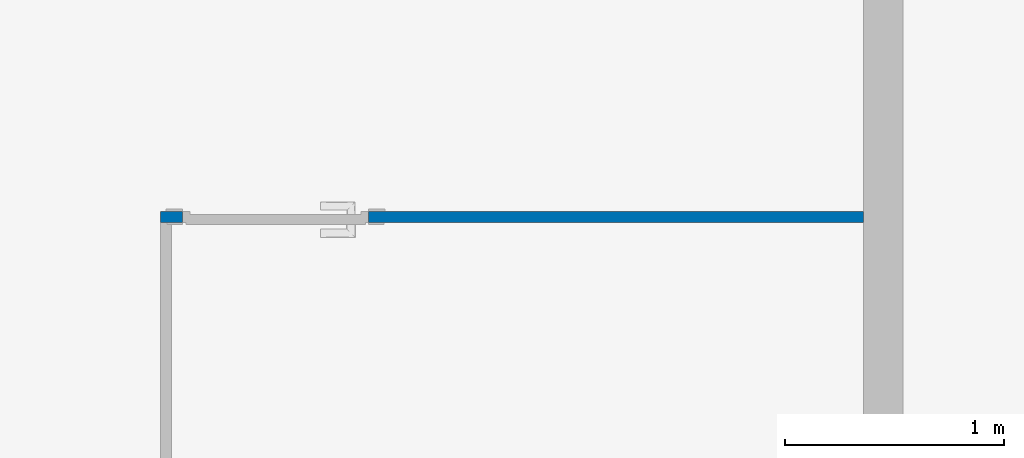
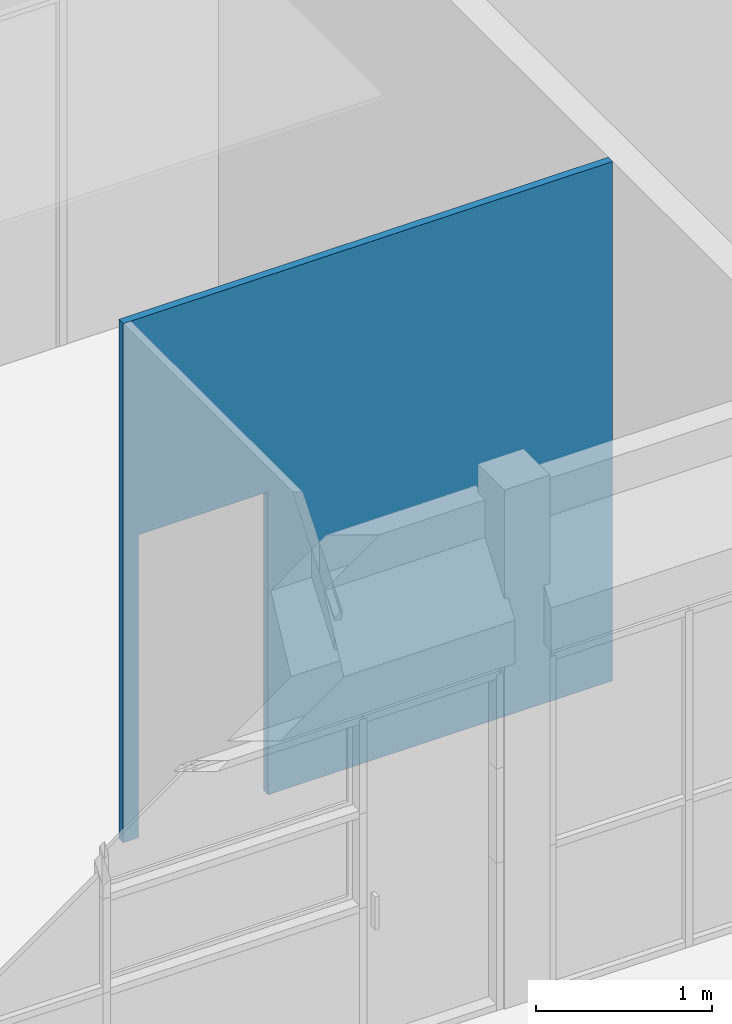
# One storey, part 73 of 117: 1 wall, 1 opening.
"""IFC4 building model written with IfcOpenShell, lengths in metres."""

import ifcopenshell
import ifcopenshell.guid

model = None  # the IFC model being written
_history = None  # IfcOwnerHistory: only IFC2X3 demands one
_inside = {}  # id of a spatial element -> (the spatial element, [elements in it])
_under = {}  # id of a project, library or spatial element -> (it, [spatial elements below it])
_declared = {}  # id of a project -> (the project, [libraries it declares])
_typed = {}  # id of a type object -> (the type object, [elements of that type])
_made_of = {}  # id of a material, layer set ... -> (it, [elements and type objects made of it])


def new_model(schema):
    """Start an empty IFC model of exactly this schema.

    Asked for "IFC4X3", IfcOpenShell would pick the latest addendum, in which some entities
    have other attributes; the version numbers below select the first issue.
    IFC2X3 requires an IfcOwnerHistory on every rooted entity: one is made here for all.
    """
    global model, _history
    if schema == "IFC4X3":
        model = ifcopenshell.file(schema_version=(4, 3, 0, 0))
    else:
        model = ifcopenshell.file(schema=schema)
    _inside.clear()
    _under.clear()
    _declared.clear()
    _typed.clear()
    _made_of.clear()
    _history = None
    if model.schema == "IFC2X3":
        org = make("IfcOrganization", Name="unknown")
        user = make(
            "IfcPersonAndOrganization",
            ThePerson=make("IfcPerson", FamilyName="unknown"),
            TheOrganization=org,
        )
        app = make(
            "IfcApplication",
            ApplicationDeveloper=org,
            Version="unknown",
            ApplicationFullName="unknown",
            ApplicationIdentifier="unknown",
        )
        _history = make(
            "IfcOwnerHistory",
            OwningUser=user,
            OwningApplication=app,
            ChangeAction="ADDED",
            CreationDate=0,
        )
    return model


def make(cls, **values):
    """One entity of the class cls with the attributes given. An attribute that is None is left unset."""
    return model.create_entity(
        cls, **{name: value for name, value in values.items() if value is not None}
    )


def entity(cls, *values):
    """Any entity or typed value of the class cls, its attributes in the order of the schema. None: left unset."""
    e = model.create_entity(cls)
    for i, value in enumerate(values):
        if value is not None:
            e[i] = value
    return e


def rooted(cls, **values):
    """An entity with a GlobalId (a new one), such as an element, a storey or a relation."""
    return make(cls, GlobalId=ifcopenshell.guid.new(), OwnerHistory=_history, **values)


def si_unit(unit_type, name, prefix=None):
    """IfcSIUnit, for example si_unit("LENGTHUNIT", "METRE", prefix="MILLI")."""
    return make("IfcSIUnit", UnitType=unit_type, Prefix=prefix, Name=name)


def converted_unit(unit_type, name, factor, base, dimensions=None, offset=None):
    """IfcConversionBasedUnit, such as the inch: factor (a typed value) times the base unit."""
    return make(
        "IfcConversionBasedUnit"
        if offset is None
        else "IfcConversionBasedUnitWithOffset",
        ConversionOffset=offset,
        Dimensions=None
        if dimensions is None
        else entity("IfcDimensionalExponents", *dimensions),
        UnitType=unit_type,
        Name=name,
        ConversionFactor=make(
            "IfcMeasureWithUnit", ValueComponent=factor, UnitComponent=base
        ),
    )


def derived_unit(unit_type, elements):
    """IfcDerivedUnit: a product of units, each with its exponent."""
    return make(
        "IfcDerivedUnit",
        Elements=[
            make("IfcDerivedUnitElement", Unit=unit, Exponent=power)
            for unit, power in elements
        ],
        UnitType=unit_type,
    )


def assignment(units):
    """IfcUnitAssignment: the units of a project."""
    return None if units is None else make("IfcUnitAssignment", Units=units)


def point(xyz):
    """IfcCartesianPoint."""
    return None if xyz is None else make("IfcCartesianPoint", Coordinates=xyz)


def direction(xyz):
    """IfcDirection."""
    return None if xyz is None else make("IfcDirection", DirectionRatios=xyz)


def frame(location, z_axis=None, x_axis=None):
    """IfcAxis2Placement3D, a coordinate frame: its origin and axes. An axis left out is left unset."""
    return make(
        "IfcAxis2Placement3D",
        Location=point(location),
        Axis=direction(z_axis),
        RefDirection=direction(x_axis),
    )


def origin():
    """The frame at (0, 0, 0) with its axes left unset."""
    return frame((0.0, 0.0, 0.0))


def place(relative_to, where):
    """IfcLocalPlacement: puts the frame where relative to a parent placement (None: the world)."""
    return make(
        "IfcLocalPlacement", PlacementRelTo=relative_to, RelativePlacement=where
    )


def context(
    kind, dimensions, precision=None, world=None, true_north=None, identifier=None
):
    """IfcGeometricRepresentationContext, for example the 3D "Model" context."""
    return make(
        "IfcGeometricRepresentationContext",
        ContextIdentifier=identifier,
        ContextType=kind,
        CoordinateSpaceDimension=dimensions,
        Precision=precision,
        WorldCoordinateSystem=world,
        TrueNorth=true_north,
    )


def subcontext(parent, identifier, kind, view, scale=None):
    """IfcGeometricRepresentationSubContext, for example "Body" below "Model"."""
    return make(
        "IfcGeometricRepresentationSubContext",
        ContextIdentifier=identifier,
        ContextType=kind,
        ParentContext=parent,
        TargetScale=scale,
        TargetView=view,
    )


def project(units=None, contexts=None):
    """IfcProject with its units and contexts."""
    return rooted(
        "IfcProject",
        Name="project",
        RepresentationContexts=contexts,
        UnitsInContext=assignment(units),
    )


def spatial(cls, under=None, at=None, **own):
    """A site, building, storey or space (cls), placed at a placement, below another one or the project."""
    s = rooted(cls, ObjectPlacement=at, **own)
    if under is not None:
        _under.setdefault(under.id(), (under, []))[1].append(s)
    return s


def point_list(points):
    """IfcCartesianPointList2D or 3D."""
    cls = (
        "IfcCartesianPointList2D" if len(points[0]) == 2 else "IfcCartesianPointList3D"
    )
    return make(cls, CoordList=points)


def indexed_curve(points, segments=None, self_intersect=None):
    """IfcIndexedPolyCurve: lines and arcs through numbered points (the first is 1)."""
    return make(
        "IfcIndexedPolyCurve",
        Points=point_list(points),
        Segments=segments,
        SelfIntersect=self_intersect,
    )


def outline(outer, holes=None, kind="AREA"):
    """IfcArbitraryClosedProfileDef: a profile drawn as a closed curve; with holes, ...WithVoids."""
    if holes is None:
        return make("IfcArbitraryClosedProfileDef", ProfileType=kind, OuterCurve=outer)
    return make(
        "IfcArbitraryProfileDefWithVoids",
        ProfileType=kind,
        OuterCurve=outer,
        InnerCurves=holes,
    )


def extrude(swept, where, along, depth):
    """IfcExtrudedAreaSolid: the profile swept, set in the frame where, extruded along a direction by depth."""
    return make(
        "IfcExtrudedAreaSolid",
        SweptArea=swept,
        Position=where,
        ExtrudedDirection=direction(along),
        Depth=depth,
    )


def polygons(points, faces, closed=None, point_numbers=None):
    """IfcPolygonalFaceSet: a face is its outer loop, then its inner loops; points numbered from 1."""
    made = []
    for loops in faces:
        if len(loops) == 1:
            made.append(make("IfcIndexedPolygonalFace", CoordIndex=loops[0]))
        else:
            made.append(
                make(
                    "IfcIndexedPolygonalFaceWithVoids",
                    CoordIndex=loops[0],
                    InnerCoordIndices=loops[1:],
                )
            )
    return make(
        "IfcPolygonalFaceSet",
        Coordinates=point_list(points),
        Closed=closed,
        Faces=made,
        PnIndex=point_numbers,
    )


def shape(context_of_items, identifier, shape_type, items):
    """IfcShapeRepresentation: the items that make up one representation, for example the "Body"."""
    return make(
        "IfcShapeRepresentation",
        ContextOfItems=context_of_items,
        RepresentationIdentifier=identifier,
        RepresentationType=shape_type,
        Items=items,
    )


def material(Name=None, Category=None):
    """IfcMaterial."""
    return make("IfcMaterial", Name=Name, Category=Category)


def made_of(thing, what):
    """Note that an element or type object is made of a material, layer set ...; save() writes the relation."""
    if what is not None:
        _made_of.setdefault(what.id(), (what, []))[1].append(thing)
    return thing


def type_object(cls, material=None, **own):
    """A type object (cls), such as IfcWallType, which elements share."""
    return made_of(rooted(cls, **own), material)


def element(
    cls,
    number,
    at=None,
    inside=None,
    cuts=None,
    type_object=None,
    material=None,
    context=None,
    identifier="Body",
    shape_type=None,
    held_by="IfcProductDefinitionShape",
    body=None,
    shapes=None,
    **own,
):
    """One element of the class cls, such as IfcWall. Its Tag is "e" and its number.

    at: its placement. inside: the storey or other place that contains it. cuts: it is an
    opening in that element (IfcRelVoidsElement). A single representation is given by context,
    identifier, shape_type and body (its items); several are given by shapes. held_by: the class
    of the entity that holds the representations. save() writes the other relations.
    """
    e = rooted(cls, Tag="e%d" % number, ObjectPlacement=at, **own)
    if body is not None:
        shapes = [shape(context, identifier, shape_type, body)]
    if shapes is not None:
        e.Representation = make(held_by, Representations=shapes)
    if inside is not None:
        _inside.setdefault(inside.id(), (inside, []))[1].append(e)
    if cuts is not None:
        rooted(
            "IfcRelVoidsElement", RelatingBuildingElement=cuts, RelatedOpeningElement=e
        )
    if type_object is not None:
        _typed.setdefault(type_object.id(), (type_object, []))[1].append(e)
    return made_of(e, material)


def aggregate(whole, parts):
    """IfcRelAggregates: a whole, such as a stair, and the parts it consists of."""
    return rooted("IfcRelAggregates", RelatingObject=whole, RelatedObjects=parts)


def save(model, path):
    """Write the relations noted so far, then the file.

    IfcRelAggregates (storeys below a building ...), IfcRelContainedInSpatialStructure (elements
    in a storey), IfcRelDefinesByType, IfcRelAssociatesMaterial and IfcRelDeclares: one each for
    every whole, place, type object, material and project.
    """
    for whole, parts in _under.values():
        aggregate(whole, parts)
    for where, things in _inside.values():
        rooted(
            "IfcRelContainedInSpatialStructure",
            RelatedElements=things,
            RelatingStructure=where,
        )
    for kind, things in _typed.values():
        rooted("IfcRelDefinesByType", RelatedObjects=things, RelatingType=kind)
    for what, things in _made_of.values():
        rooted("IfcRelAssociatesMaterial", RelatedObjects=things, RelatingMaterial=what)
    for by, libraries in _declared.values():
        rooted("IfcRelDeclares", RelatingContext=by, RelatedDefinitions=libraries)
    model.write(path)


model = new_model("IFC4")

# Units and contexts
model_context = context("Model", 3, precision=1e-05, world=origin(), true_north=direction((6.123031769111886e-17, 1.0)))
body_context = subcontext(model_context, "Body", "Model", "MODEL_VIEW")
ifc_project = project(units=[si_unit("LENGTHUNIT", "METRE"), si_unit("AREAUNIT", "SQUARE_METRE"), si_unit("VOLUMEUNIT", "CUBIC_METRE"), converted_unit("PLANEANGLEUNIT", "DEGREE", entity("IfcRatioMeasure", 0.017453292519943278), si_unit("PLANEANGLEUNIT", "RADIAN"), dimensions=[0, 0, 0, 0, 0, 0, 0]), si_unit("MASSUNIT", "GRAM", prefix="KILO"), derived_unit("MASSDENSITYUNIT", [(si_unit("MASSUNIT", "GRAM", prefix="KILO"), 1), (si_unit("LENGTHUNIT", "METRE"), -3)]), derived_unit("MOMENTOFINERTIAUNIT", [(si_unit("LENGTHUNIT", "METRE"), 4)]), si_unit("TIMEUNIT", "SECOND"), si_unit("FREQUENCYUNIT", "HERTZ"), si_unit("THERMODYNAMICTEMPERATUREUNIT", "DEGREE_CELSIUS"), derived_unit("THERMALTRANSMITTANCEUNIT", [(si_unit("MASSUNIT", "GRAM", prefix="KILO"), 1), (si_unit("THERMODYNAMICTEMPERATUREUNIT", "KELVIN"), -1), (si_unit("TIMEUNIT", "SECOND"), -3)]), derived_unit("VOLUMETRICFLOWRATEUNIT", [(si_unit("LENGTHUNIT", "METRE"), 3), (si_unit("TIMEUNIT", "SECOND"), -1)]), derived_unit("MASSFLOWRATEUNIT", [(si_unit("MASSUNIT", "GRAM", prefix="KILO"), 1), (si_unit("TIMEUNIT", "SECOND"), -1)]), derived_unit("ROTATIONALFREQUENCYUNIT", [(si_unit("TIMEUNIT", "SECOND"), -1)]), si_unit("ELECTRICCURRENTUNIT", "AMPERE"), si_unit("ELECTRICVOLTAGEUNIT", "VOLT"), si_unit("POWERUNIT", "WATT"), si_unit("FORCEUNIT", "NEWTON", prefix="KILO"), si_unit("ILLUMINANCEUNIT", "LUX"), si_unit("LUMINOUSFLUXUNIT", "LUMEN"), si_unit("LUMINOUSINTENSITYUNIT", "CANDELA"), derived_unit("USERDEFINED", [(si_unit("MASSUNIT", "GRAM", prefix="KILO"), -1), (si_unit("LENGTHUNIT", "METRE"), -2), (si_unit("TIMEUNIT", "SECOND"), 3), (si_unit("LUMINOUSFLUXUNIT", "LUMEN"), 1)]), derived_unit("SOUNDPOWERUNIT", [(si_unit("MASSUNIT", "GRAM", prefix="KILO"), 1), (si_unit("LENGTHUNIT", "METRE"), 2), (si_unit("TIMEUNIT", "SECOND"), -3)]), derived_unit("SOUNDPRESSUREUNIT", [(si_unit("MASSUNIT", "GRAM", prefix="KILO"), 1), (si_unit("LENGTHUNIT", "METRE"), -1), (si_unit("TIMEUNIT", "SECOND"), -2)]), derived_unit("LINEARVELOCITYUNIT", [(si_unit("LENGTHUNIT", "METRE"), 1), (si_unit("TIMEUNIT", "SECOND"), -1)]), si_unit("PRESSUREUNIT", "PASCAL"), derived_unit("USERDEFINED", [(si_unit("LENGTHUNIT", "METRE"), -2), (si_unit("MASSUNIT", "GRAM", prefix="KILO"), 1), (si_unit("TIMEUNIT", "SECOND"), -2)]), derived_unit("LINEARFORCEUNIT", [(si_unit("MASSUNIT", "GRAM", prefix="KILO"), 1), (si_unit("LENGTHUNIT", "METRE"), 1), (si_unit("TIMEUNIT", "SECOND"), -2), (si_unit("LENGTHUNIT", "METRE"), -1)]), derived_unit("PLANARFORCEUNIT", [(si_unit("MASSUNIT", "GRAM", prefix="KILO"), 1), (si_unit("LENGTHUNIT", "METRE"), 1), (si_unit("TIMEUNIT", "SECOND"), -2), (si_unit("LENGTHUNIT", "METRE"), -2)])], contexts=[model_context])

# Site, building, storey
site_placement = place(None, origin())
site = spatial("IfcSite", under=ifc_project, at=site_placement, Name="Superficie", CompositionType="ELEMENT")
building_placement = place(site_placement, origin())
building = spatial("IfcBuilding", under=site, at=building_placement, CompositionType="ELEMENT")
storey_placement = place(building_placement, origin())
storey = spatial("IfcBuildingStorey", under=building, at=storey_placement, Name="Nivel 0", CompositionType="ELEMENT", Elevation=0.0)

# Wall, opening
ifc_material = material(Name="Muro por defecto", Category="Varios")
wall_type = type_object("IfcWallType", Name="Muro básico:Por defecto - 5 cm 2", PredefinedType="STANDARD")
wall_placement = place(storey_placement, frame((6.741552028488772, 8.191739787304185, 0.0), z_axis=(0.0, 0.0, 1.0), x_axis=(-1.0, 0.0, 0.0)))
wall = element("IfcWall", 1, at=wall_placement, inside=storey, type_object=wall_type, material=ifc_material, Name="Muro básico:Por defecto - 5 cm 2", ObjectType="Muro básico:Por defecto - 5 cm 2", PredefinedType="NOTDEFINED", context=body_context, shape_type="Tessellation", body=[
    polygons([(3.210000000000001, -0.02499999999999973, 3.5999999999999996), (1.9754498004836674e-15, -0.02499999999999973, 3.5999999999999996), (-1.9028445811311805e-16, -0.02499999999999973, 0.0), (2.2600000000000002, -0.024999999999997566, 0.0), (2.2600000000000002, -0.024999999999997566, 2.099999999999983), (3.1100000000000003, -0.02499999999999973, 2.099999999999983), (3.1100000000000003, -0.02499999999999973, 0.0), (3.210000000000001, -0.02499999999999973, 0.0), (-3.4068267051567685e-16, 0.025000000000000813, 3.5999999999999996), (3.1600000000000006, 0.02499999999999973, 3.5999999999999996), (3.21, 0.02499999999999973, 3.5999999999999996), (3.21, 0.02499999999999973, 0.0), (3.16, 0.02499999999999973, 0.0), (3.1099999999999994, 0.02499999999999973, 0.0), (3.1099999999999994, 0.02499999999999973, 2.099999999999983), (2.2600000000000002, 0.025000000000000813, 2.099999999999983), (2.2600000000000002, 0.025000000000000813, 0.0), (1.8250515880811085e-15, 0.025000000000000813, 0.0)], [[[1, 2, 3, 4, 5, 6, 7, 8]], [[9, 10, 11, 12, 13, 14, 15, 16, 17, 18]], [[3, 18, 17, 4]], [[2, 1, 11, 10, 9]], [[3, 2, 9, 18]], [[1, 8, 12, 11]], [[6, 15, 14, 7]], [[15, 6, 5, 16]], [[16, 5, 4, 17]], [[12, 8, 7, 14, 13]]], closed=True),
])
opening_placement = place(wall_placement, frame((2.2600000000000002, -0.02500000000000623, 0.0)))
element("IfcOpeningElement", 2, at=opening_placement, cuts=wall, Name="Puerta de 1 hoja:85 x 210 cm 2:1", PredefinedType="OPENING", context=body_context, shape_type="SweptSolid", body=[
    extrude(outline(indexed_curve([(0.0, 0.8499999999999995), (0.0, 0.0), (2.099999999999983, 0.0), (2.099999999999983, 0.8499999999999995), (0.0, 0.8499999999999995)], self_intersect=False)), frame((0.0, 0.0, 0.0), z_axis=(0.0, 1.0, 0.0), x_axis=(0.0, 0.0, 1.0)), (0.0, 0.0, 1.0), 0.05),
])

save(model, "model.ifc")
